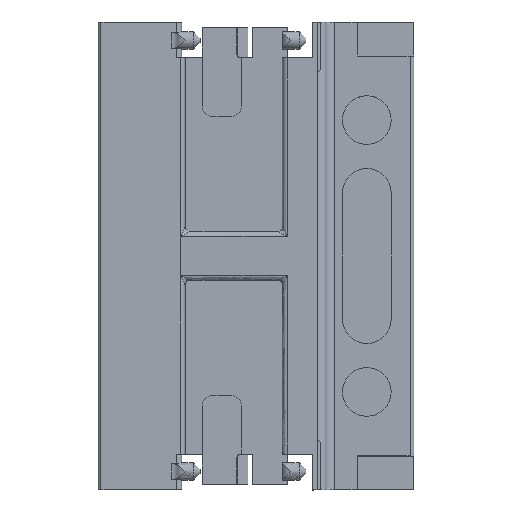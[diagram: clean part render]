
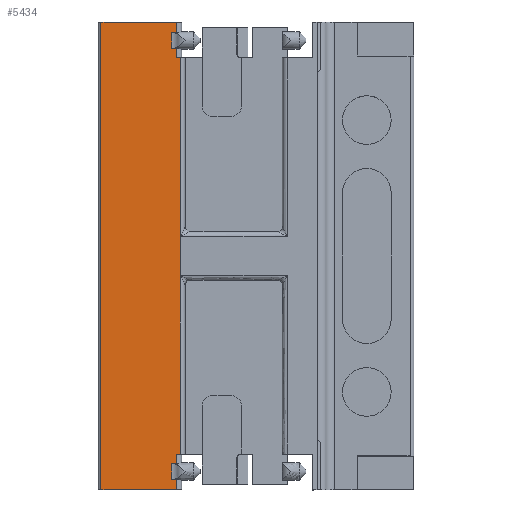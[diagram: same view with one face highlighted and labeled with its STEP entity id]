
A CAD part, top view. The second image highlights one B-rep face of the part: STEP entity #5434.
In plain terms, the highlighted planar face has unit normal (0, 0, 1).
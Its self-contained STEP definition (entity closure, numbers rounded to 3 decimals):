
#2128=CARTESIAN_POINT('',(174.003,135.201,13.762));
#2129=VERTEX_POINT('',#2128);
#2137=CARTESIAN_POINT('',(173.655,135.201,13.762));
#2138=VERTEX_POINT('',#2137);
#2139=CARTESIAN_POINT('',(173.655,135.201,13.762));
#2140=DIRECTION('',(1.0,0.0,0.));
#2141=VECTOR('',#2140,0.348);
#2142=LINE('',#2139,#2141);
#2143=EDGE_CURVE('',#2138,#2129,#2142,.T.);
#2179=CARTESIAN_POINT('',(173.655,134.207,13.762));
#2180=VERTEX_POINT('',#2179);
#2181=CARTESIAN_POINT('',(173.655,134.207,13.762));
#2182=DIRECTION('',(0.,1.0,0.));
#2183=VECTOR('',#2182,0.994);
#2184=LINE('',#2181,#2183);
#2185=EDGE_CURVE('',#2180,#2138,#2184,.T.);
#2242=CARTESIAN_POINT('',(173.655,131.501,13.762));
#2243=VERTEX_POINT('',#2242);
#2259=CARTESIAN_POINT('',(173.655,132.594,13.762));
#2260=VERTEX_POINT('',#2259);
#2277=CARTESIAN_POINT('',(173.655,131.501,13.762));
#2278=DIRECTION('',(0.,1.0,0.));
#2279=VECTOR('',#2278,1.094);
#2280=LINE('',#2277,#2279);
#2281=EDGE_CURVE('',#2243,#2260,#2280,.T.);
#2324=CARTESIAN_POINT('',(165.845,131.501,13.762));
#2325=VERTEX_POINT('',#2324);
#2326=CARTESIAN_POINT('',(165.845,131.501,13.762));
#2327=DIRECTION('',(1.0,0.0,0.));
#2328=VECTOR('',#2327,7.81);
#2329=LINE('',#2326,#2328);
#2330=EDGE_CURVE('',#2325,#2243,#2329,.T.);
#2485=CARTESIAN_POINT('',(173.128,132.594,13.762));
#2486=VERTEX_POINT('',#2485);
#2501=CARTESIAN_POINT('',(173.128,134.207,13.762));
#2502=VERTEX_POINT('',#2501);
#2516=CARTESIAN_POINT('',(173.128,132.594,13.762));
#2517=DIRECTION('',(0.,1.0,0.));
#2518=VECTOR('',#2517,1.612);
#2519=LINE('',#2516,#2518);
#2520=EDGE_CURVE('',#2486,#2502,#2519,.T.);
#2800=CARTESIAN_POINT('',(173.655,132.594,13.762));
#2801=DIRECTION('',(-1.0,0.,0.));
#2802=VECTOR('',#2801,0.527);
#2803=LINE('',#2800,#2802);
#2804=EDGE_CURVE('',#2260,#2486,#2803,.T.);
#2809=CARTESIAN_POINT('',(173.655,134.207,13.762));
#2810=DIRECTION('',(-1.0,0.0,0.0));
#2811=VECTOR('',#2810,0.527);
#2812=LINE('',#2809,#2811);
#2813=EDGE_CURVE('',#2180,#2502,#2812,.T.);
#5007=CARTESIAN_POINT('',(174.003,176.001,13.762));
#5008=VERTEX_POINT('',#5007);
#5016=CARTESIAN_POINT('',(174.003,176.001,13.762));
#5017=DIRECTION('',(0.0,-1.0,0.0));
#5018=VECTOR('',#5017,40.8);
#5019=LINE('',#5016,#5018);
#5020=EDGE_CURVE('',#5008,#2129,#5019,.T.);
#5302=CARTESIAN_POINT('',(173.655,176.001,13.762));
#5303=VERTEX_POINT('',#5302);
#5311=CARTESIAN_POINT('',(173.655,176.001,13.762));
#5312=DIRECTION('',(1.0,0.0,0.));
#5313=VECTOR('',#5312,0.348);
#5314=LINE('',#5311,#5313);
#5315=EDGE_CURVE('',#5303,#5008,#5314,.T.);
#5344=CARTESIAN_POINT('',(173.655,176.994,13.762));
#5345=VERTEX_POINT('',#5344);
#5362=CARTESIAN_POINT('',(173.655,176.994,13.762));
#5363=DIRECTION('',(0.,-1.0,0.));
#5364=VECTOR('',#5363,0.994);
#5365=LINE('',#5362,#5364);
#5366=EDGE_CURVE('',#5345,#5303,#5365,.T.);
#5371=CARTESIAN_POINT('',(165.845,179.701,13.762));
#5372=DIRECTION('',(0.,0.,1.0));
#5373=DIRECTION('',(1.0,0.,0.));
#5374=AXIS2_PLACEMENT_3D('',#5371,#5372,#5373);
#5375=PLANE('',#5374);
#5376=ORIENTED_EDGE('',*,*,#5315,.F.);
#5377=ORIENTED_EDGE('',*,*,#5366,.F.);
#5378=CARTESIAN_POINT('',(173.128,176.994,13.762));
#5379=VERTEX_POINT('',#5378);
#5380=CARTESIAN_POINT('',(173.655,176.994,13.762));
#5381=DIRECTION('',(-1.0,0.0,0.0));
#5382=VECTOR('',#5381,0.527);
#5383=LINE('',#5380,#5382);
#5384=EDGE_CURVE('',#5345,#5379,#5383,.T.);
#5385=ORIENTED_EDGE('',*,*,#5384,.T.);
#5386=CARTESIAN_POINT('',(173.128,178.607,13.762));
#5387=VERTEX_POINT('',#5386);
#5388=CARTESIAN_POINT('',(173.128,178.607,13.762));
#5389=DIRECTION('',(0.,-1.0,0.));
#5390=VECTOR('',#5389,1.612);
#5391=LINE('',#5388,#5390);
#5392=EDGE_CURVE('',#5387,#5379,#5391,.T.);
#5393=ORIENTED_EDGE('',*,*,#5392,.F.);
#5394=CARTESIAN_POINT('',(173.655,178.607,13.762));
#5395=VERTEX_POINT('',#5394);
#5396=CARTESIAN_POINT('',(173.655,178.607,13.762));
#5397=DIRECTION('',(-1.0,0.,0.));
#5398=VECTOR('',#5397,0.527);
#5399=LINE('',#5396,#5398);
#5400=EDGE_CURVE('',#5395,#5387,#5399,.T.);
#5401=ORIENTED_EDGE('',*,*,#5400,.F.);
#5402=CARTESIAN_POINT('',(173.655,179.701,13.762));
#5403=VERTEX_POINT('',#5402);
#5404=CARTESIAN_POINT('',(173.655,179.701,13.762));
#5405=DIRECTION('',(0.,-1.0,0.));
#5406=VECTOR('',#5405,1.094);
#5407=LINE('',#5404,#5406);
#5408=EDGE_CURVE('',#5403,#5395,#5407,.T.);
#5409=ORIENTED_EDGE('',*,*,#5408,.F.);
#5410=CARTESIAN_POINT('',(165.845,179.701,13.762));
#5411=VERTEX_POINT('',#5410);
#5412=CARTESIAN_POINT('',(165.845,179.701,13.762));
#5413=DIRECTION('',(1.0,0.0,0.));
#5414=VECTOR('',#5413,7.81);
#5415=LINE('',#5412,#5414);
#5416=EDGE_CURVE('',#5411,#5403,#5415,.T.);
#5417=ORIENTED_EDGE('',*,*,#5416,.F.);
#5418=CARTESIAN_POINT('',(165.845,131.501,13.762));
#5419=DIRECTION('',(0.0,1.0,0.0));
#5420=VECTOR('',#5419,48.2);
#5421=LINE('',#5418,#5420);
#5422=EDGE_CURVE('',#2325,#5411,#5421,.T.);
#5423=ORIENTED_EDGE('',*,*,#5422,.F.);
#5424=ORIENTED_EDGE('',*,*,#2330,.T.);
#5425=ORIENTED_EDGE('',*,*,#2281,.T.);
#5426=ORIENTED_EDGE('',*,*,#2804,.T.);
#5427=ORIENTED_EDGE('',*,*,#2520,.T.);
#5428=ORIENTED_EDGE('',*,*,#2813,.F.);
#5429=ORIENTED_EDGE('',*,*,#2185,.T.);
#5430=ORIENTED_EDGE('',*,*,#2143,.T.);
#5431=ORIENTED_EDGE('',*,*,#5020,.F.);
#5432=EDGE_LOOP('',(#5376,#5377,#5385,#5393,#5401,#5409,#5417,#5423,#5424,#5425,#5426,#5427,#5428,#5429,#5430,#5431));
#5433=FACE_OUTER_BOUND('',#5432,.T.);
#5434=ADVANCED_FACE('',(#5433),#5375,.T.);
